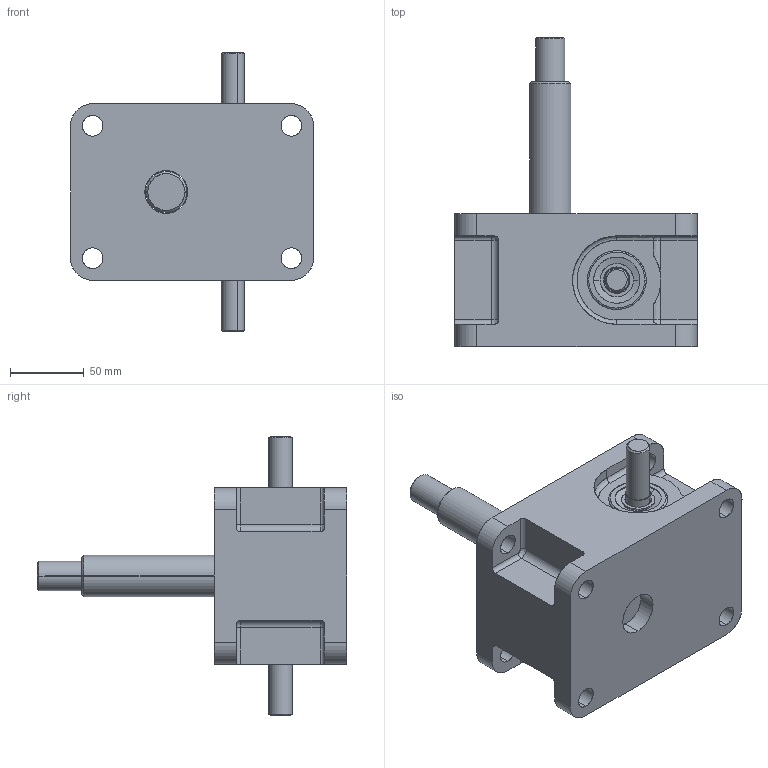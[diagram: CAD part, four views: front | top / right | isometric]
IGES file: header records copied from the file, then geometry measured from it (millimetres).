
Start section: SolidWorks IGES file using analytic representation for surfaces
Global section: file name: E:\3D\desenv\Solid Works\Levy\web\LMR\LMR2.5\LMR2.5.IGS; native system: SolidWorks 2008; preprocessor: SolidWorks 2008; author: User; date: 080730.211637; units: millimetre
Bounding box: 165 x 210 x 190 mm (x, y, z)
Surface area: 161566.8 mm2 (no closed solid volume)
Topology: 0 solids, 0 shells, 204 faces, 3656 edges, 3656 vertices
Faces by surface type: revolution 140, bspline 64
